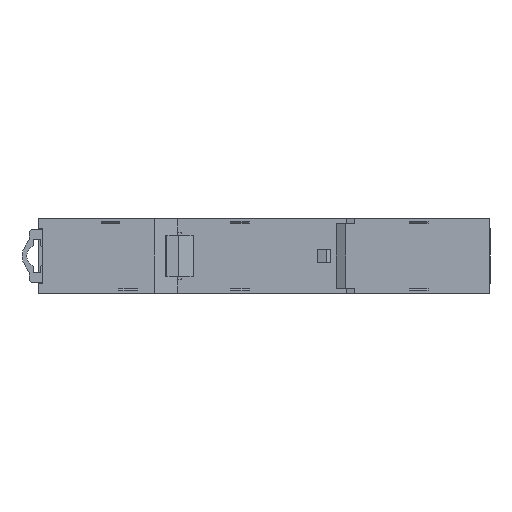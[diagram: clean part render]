
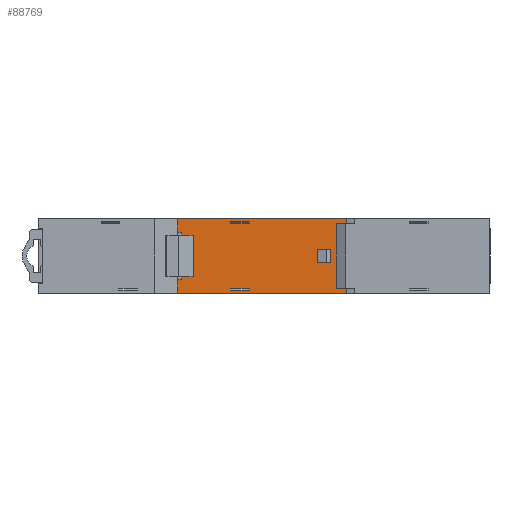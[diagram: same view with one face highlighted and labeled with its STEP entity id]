
A CAD part, front view. The second image highlights one B-rep face of the part: STEP entity #88769.
In plain terms, the highlighted planar face has unit normal (0, -1, 0).
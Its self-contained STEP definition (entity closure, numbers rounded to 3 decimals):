
#15454=ORIENTED_EDGE('',*,*,#32188,.T.);
#15455=ORIENTED_EDGE('',*,*,#32189,.T.);
#15456=ORIENTED_EDGE('',*,*,#32190,.T.);
#15457=ORIENTED_EDGE('',*,*,#32191,.F.);
#15458=ORIENTED_EDGE('',*,*,#32192,.T.);
#15459=ORIENTED_EDGE('',*,*,#32193,.T.);
#15460=ORIENTED_EDGE('',*,*,#32194,.T.);
#15461=ORIENTED_EDGE('',*,*,#32195,.T.);
#15462=ORIENTED_EDGE('',*,*,#32196,.F.);
#15463=ORIENTED_EDGE('',*,*,#32197,.T.);
#15464=ORIENTED_EDGE('',*,*,#32198,.T.);
#15465=ORIENTED_EDGE('',*,*,#32199,.T.);
#15466=ORIENTED_EDGE('',*,*,#32200,.T.);
#15467=ORIENTED_EDGE('',*,*,#32201,.T.);
#15468=ORIENTED_EDGE('',*,*,#32202,.T.);
#15469=ORIENTED_EDGE('',*,*,#32203,.T.);
#15470=ORIENTED_EDGE('',*,*,#32204,.T.);
#15471=ORIENTED_EDGE('',*,*,#32205,.T.);
#15472=ORIENTED_EDGE('',*,*,#32206,.T.);
#15473=ORIENTED_EDGE('',*,*,#32207,.F.);
#15474=ORIENTED_EDGE('',*,*,#32208,.T.);
#15475=ORIENTED_EDGE('',*,*,#32209,.F.);
#15476=ORIENTED_EDGE('',*,*,#32210,.T.);
#15477=ORIENTED_EDGE('',*,*,#32211,.T.);
#15478=ORIENTED_EDGE('',*,*,#32212,.T.);
#15479=ORIENTED_EDGE('',*,*,#32213,.F.);
#15480=ORIENTED_EDGE('',*,*,#32214,.F.);
#15481=ORIENTED_EDGE('',*,*,#32215,.F.);
#32188=EDGE_CURVE('',#48054,#48055,#61495,.T.);
#32189=EDGE_CURVE('',#48055,#48056,#61496,.T.);
#32190=EDGE_CURVE('',#48056,#48057,#61497,.T.);
#32191=EDGE_CURVE('',#48054,#48057,#61498,.T.);
#32192=EDGE_CURVE('',#48058,#48059,#61499,.T.);
#32193=EDGE_CURVE('',#48059,#48060,#61500,.T.);
#32194=EDGE_CURVE('',#48060,#48061,#61501,.T.);
#32195=EDGE_CURVE('',#48061,#48058,#61502,.T.);
#32196=EDGE_CURVE('',#48062,#48063,#61503,.T.);
#32197=EDGE_CURVE('',#48062,#48064,#61504,.T.);
#32198=EDGE_CURVE('',#48064,#48065,#61505,.T.);
#32199=EDGE_CURVE('',#48065,#48063,#61506,.T.);
#32200=EDGE_CURVE('',#48066,#48067,#61507,.T.);
#32201=EDGE_CURVE('',#48067,#48068,#61508,.T.);
#32202=EDGE_CURVE('',#48068,#48069,#61509,.T.);
#32203=EDGE_CURVE('',#48069,#48070,#61510,.T.);
#32204=EDGE_CURVE('',#48070,#48071,#61511,.T.);
#32205=EDGE_CURVE('',#48071,#48072,#61512,.T.);
#32206=EDGE_CURVE('',#48072,#48073,#61513,.T.);
#32207=EDGE_CURVE('',#48074,#48073,#61514,.T.);
#32208=EDGE_CURVE('',#48074,#48075,#61515,.T.);
#32209=EDGE_CURVE('',#48076,#48075,#61516,.T.);
#32210=EDGE_CURVE('',#48076,#48077,#61517,.T.);
#32211=EDGE_CURVE('',#48077,#48078,#61518,.T.);
#32212=EDGE_CURVE('',#48078,#48079,#61519,.T.);
#32213=EDGE_CURVE('',#48080,#48079,#61520,.T.);
#32214=EDGE_CURVE('',#48081,#48080,#61521,.T.);
#32215=EDGE_CURVE('',#48066,#48081,#61522,.T.);
#48054=VERTEX_POINT('',#171239);
#48055=VERTEX_POINT('',#171240);
#48056=VERTEX_POINT('',#171242);
#48057=VERTEX_POINT('',#171244);
#48058=VERTEX_POINT('',#171247);
#48059=VERTEX_POINT('',#171248);
#48060=VERTEX_POINT('',#171250);
#48061=VERTEX_POINT('',#171252);
#48062=VERTEX_POINT('',#171255);
#48063=VERTEX_POINT('',#171256);
#48064=VERTEX_POINT('',#171258);
#48065=VERTEX_POINT('',#171260);
#48066=VERTEX_POINT('',#171263);
#48067=VERTEX_POINT('',#171264);
#48068=VERTEX_POINT('',#171266);
#48069=VERTEX_POINT('',#171268);
#48070=VERTEX_POINT('',#171270);
#48071=VERTEX_POINT('',#171272);
#48072=VERTEX_POINT('',#171274);
#48073=VERTEX_POINT('',#171276);
#48074=VERTEX_POINT('',#171278);
#48075=VERTEX_POINT('',#171280);
#48076=VERTEX_POINT('',#171282);
#48077=VERTEX_POINT('',#171284);
#48078=VERTEX_POINT('',#171286);
#48079=VERTEX_POINT('',#171288);
#48080=VERTEX_POINT('',#171290);
#48081=VERTEX_POINT('',#171292);
#61495=LINE('',#171238,#74532);
#61496=LINE('',#171241,#74533);
#61497=LINE('',#171243,#74534);
#61498=LINE('',#171245,#74535);
#61499=LINE('',#171246,#74536);
#61500=LINE('',#171249,#74537);
#61501=LINE('',#171251,#74538);
#61502=LINE('',#171253,#74539);
#61503=LINE('',#171254,#74540);
#61504=LINE('',#171257,#74541);
#61505=LINE('',#171259,#74542);
#61506=LINE('',#171261,#74543);
#61507=LINE('',#171262,#74544);
#61508=LINE('',#171265,#74545);
#61509=LINE('',#171267,#74546);
#61510=LINE('',#171269,#74547);
#61511=LINE('',#171271,#74548);
#61512=LINE('',#171273,#74549);
#61513=LINE('',#171275,#74550);
#61514=LINE('',#171277,#74551);
#61515=LINE('',#171279,#74552);
#61516=LINE('',#171281,#74553);
#61517=LINE('',#171283,#74554);
#61518=LINE('',#171285,#74555);
#61519=LINE('',#171287,#74556);
#61520=LINE('',#171289,#74557);
#61521=LINE('',#171291,#74558);
#61522=LINE('',#171293,#74559);
#74532=VECTOR('',#137414,1000.);
#74533=VECTOR('',#137415,1000.);
#74534=VECTOR('',#137416,1000.);
#74535=VECTOR('',#137417,1000.);
#74536=VECTOR('',#137418,1000.);
#74537=VECTOR('',#137419,1000.);
#74538=VECTOR('',#137420,1000.);
#74539=VECTOR('',#137421,1000.);
#74540=VECTOR('',#137422,1000.);
#74541=VECTOR('',#137423,1000.);
#74542=VECTOR('',#137424,1000.);
#74543=VECTOR('',#137425,1000.);
#74544=VECTOR('',#137426,1000.);
#74545=VECTOR('',#137427,1000.);
#74546=VECTOR('',#137428,1000.);
#74547=VECTOR('',#137429,1000.);
#74548=VECTOR('',#137430,1000.);
#74549=VECTOR('',#137431,1000.);
#74550=VECTOR('',#137432,1000.);
#74551=VECTOR('',#137433,1000.);
#74552=VECTOR('',#137434,1000.);
#74553=VECTOR('',#137435,1000.);
#74554=VECTOR('',#137436,1000.);
#74555=VECTOR('',#137437,1000.);
#74556=VECTOR('',#137438,1000.);
#74557=VECTOR('',#137439,1000.);
#74558=VECTOR('',#137440,1000.);
#74559=VECTOR('',#137441,1000.);
#80166=EDGE_LOOP('',(#15454,#15455,#15456,#15457));
#80167=EDGE_LOOP('',(#15458,#15459,#15460,#15461));
#80168=EDGE_LOOP('',(#15462,#15463,#15464,#15465));
#80169=EDGE_LOOP('',(#15466,#15467,#15468,#15469,#15470,#15471,#15472,#15473,
#15474,#15475,#15476,#15477,#15478,#15479,#15480,#15481));
#83407=FACE_BOUND('',#80166,.T.);
#83408=FACE_BOUND('',#80167,.T.);
#83409=FACE_BOUND('',#80168,.T.);
#83410=FACE_BOUND('',#80169,.T.);
#85953=PLANE('',#118015);
#88769=ADVANCED_FACE('',(#83407,#83408,#83409,#83410),#85953,.F.);
#118015=AXIS2_PLACEMENT_3D('',#171237,#137412,#137413);
#137412=DIRECTION('',(0.,1.,0.));
#137413=DIRECTION('',(-1.,0.,0.));
#137414=DIRECTION('',(0.,0.,-1.));
#137415=DIRECTION('',(-1.,0.,0.));
#137416=DIRECTION('',(0.,0.,1.));
#137417=DIRECTION('',(-1.,0.,0.));
#137418=DIRECTION('',(-1.,0.,0.));
#137419=DIRECTION('',(0.,0.,1.));
#137420=DIRECTION('',(1.,0.,0.));
#137421=DIRECTION('',(0.,0.,-1.));
#137422=DIRECTION('',(1.,0.,0.));
#137423=DIRECTION('',(0.,0.,1.));
#137424=DIRECTION('',(1.,0.,0.));
#137425=DIRECTION('',(0.,0.,-1.));
#137426=DIRECTION('',(1.,0.,0.));
#137427=DIRECTION('',(0.,0.,-1.));
#137428=DIRECTION('',(1.,0.,0.));
#137429=DIRECTION('',(0.,0.,-1.));
#137430=DIRECTION('',(-1.,0.,0.));
#137431=DIRECTION('',(0.,0.,-1.));
#137432=DIRECTION('',(-1.,0.,0.));
#137433=DIRECTION('',(0.,0.,1.));
#137434=DIRECTION('',(1.,0.,0.));
#137435=DIRECTION('',(0.,0.,-1.));
#137436=DIRECTION('',(-1.,0.,0.));
#137437=DIRECTION('',(0.,0.,1.));
#137438=DIRECTION('',(1.,0.,0.));
#137439=DIRECTION('',(0.,0.,-1.));
#137440=DIRECTION('',(1.,0.,0.));
#137441=DIRECTION('',(0.,0.,1.));
#171237=CARTESIAN_POINT('',(65.,9.6,-7.9));
#171238=CARTESIAN_POINT('',(44.65,9.6,7.448));
#171239=CARTESIAN_POINT('',(44.65,9.6,-6.8));
#171240=CARTESIAN_POINT('',(44.65,9.6,-7.2));
#171241=CARTESIAN_POINT('',(53.825,9.6,-7.2));
#171242=CARTESIAN_POINT('',(40.65,9.6,-7.2));
#171243=CARTESIAN_POINT('',(40.65,9.6,7.448));
#171244=CARTESIAN_POINT('',(40.65,9.6,-6.8));
#171245=CARTESIAN_POINT('',(29.5,9.6,-6.8));
#171246=CARTESIAN_POINT('',(62.759,9.6,-1.4));
#171247=CARTESIAN_POINT('',(61.866,9.6,-1.4));
#171248=CARTESIAN_POINT('',(59.134,9.6,-1.4));
#171249=CARTESIAN_POINT('',(59.134,9.6,-3.95));
#171250=CARTESIAN_POINT('',(59.134,9.6,1.4));
#171251=CARTESIAN_POINT('',(62.759,9.6,1.4));
#171252=CARTESIAN_POINT('',(61.866,9.6,1.4));
#171253=CARTESIAN_POINT('',(61.866,9.6,-3.95));
#171254=CARTESIAN_POINT('',(29.5,9.6,6.8));
#171255=CARTESIAN_POINT('',(40.65,9.6,6.8));
#171256=CARTESIAN_POINT('',(44.65,9.6,6.8));
#171257=CARTESIAN_POINT('',(40.65,9.6,7.448));
#171258=CARTESIAN_POINT('',(40.65,9.6,7.2));
#171259=CARTESIAN_POINT('',(53.825,9.6,7.2));
#171260=CARTESIAN_POINT('',(44.65,9.6,7.2));
#171261=CARTESIAN_POINT('',(44.65,9.6,7.448));
#171262=CARTESIAN_POINT('',(47.66,9.6,4.95));
#171263=CARTESIAN_POINT('',(29.5,9.6,4.95));
#171264=CARTESIAN_POINT('',(30.32,9.6,4.95));
#171265=CARTESIAN_POINT('',(30.32,9.6,-1.775));
#171266=CARTESIAN_POINT('',(30.32,9.6,4.35));
#171267=CARTESIAN_POINT('',(48.875,9.6,4.35));
#171268=CARTESIAN_POINT('',(30.75,9.6,4.35));
#171269=CARTESIAN_POINT('',(30.75,9.6,-6.125));
#171270=CARTESIAN_POINT('',(30.75,9.6,-4.35));
#171271=CARTESIAN_POINT('',(45.31,9.6,-4.35));
#171272=CARTESIAN_POINT('',(30.32,9.6,-4.35));
#171273=CARTESIAN_POINT('',(30.32,9.6,-6.425));
#171274=CARTESIAN_POINT('',(30.32,9.6,-4.95));
#171275=CARTESIAN_POINT('',(46.071,9.6,-4.95));
#171276=CARTESIAN_POINT('',(29.5,9.6,-4.95));
#171277=CARTESIAN_POINT('',(29.5,9.6,-7.9));
#171278=CARTESIAN_POINT('',(29.5,9.6,-7.9));
#171279=CARTESIAN_POINT('',(29.5,9.6,-7.9));
#171280=CARTESIAN_POINT('',(65.1,9.6,-7.9));
#171281=CARTESIAN_POINT('',(65.1,9.6,7.9));
#171282=CARTESIAN_POINT('',(65.1,9.6,-6.8));
#171283=CARTESIAN_POINT('',(53.075,9.6,-6.8));
#171284=CARTESIAN_POINT('',(65.,9.6,-6.8));
#171285=CARTESIAN_POINT('',(65.,9.6,-3.95));
#171286=CARTESIAN_POINT('',(65.,9.6,6.8));
#171287=CARTESIAN_POINT('',(52.4,9.6,6.8));
#171288=CARTESIAN_POINT('',(65.1,9.6,6.8));
#171289=CARTESIAN_POINT('',(65.1,9.6,7.9));
#171290=CARTESIAN_POINT('',(65.1,9.6,7.9));
#171291=CARTESIAN_POINT('',(29.5,9.6,7.9));
#171292=CARTESIAN_POINT('',(29.5,9.6,7.9));
#171293=CARTESIAN_POINT('',(29.5,9.6,-7.9));
